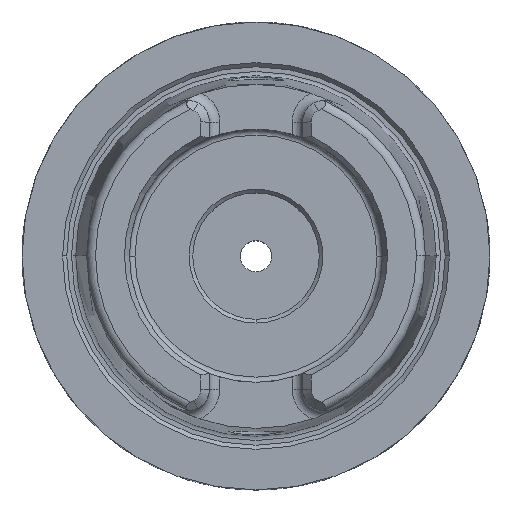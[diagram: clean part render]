
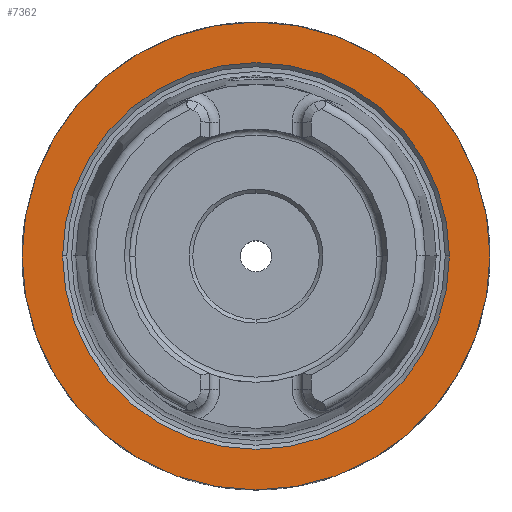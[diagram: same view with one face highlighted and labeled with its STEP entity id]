
A CAD part, top view. The second image highlights one B-rep face of the part: STEP entity #7362.
In plain terms, the highlighted planar face has unit normal (0, 0, 1).
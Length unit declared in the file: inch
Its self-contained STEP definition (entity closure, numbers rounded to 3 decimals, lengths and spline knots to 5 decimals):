
#112 = EDGE_CURVE ( 'NONE', #4594, #1712, #6298, .T. ) ;
#260 = CARTESIAN_POINT ( 'NONE',  ( 0., 0., 0. ) ) ;
#1052 = VERTEX_POINT ( 'NONE', #8057 ) ;
#1285 = DIRECTION ( 'NONE',  ( 1., 0., 0. ) ) ;
#1401 = AXIS2_PLACEMENT_3D ( 'NONE', #260, #3618, #6362 ) ;
#1557 = CIRCLE ( 'NONE', #8675, 1.02397 ) ;
#1589 = ORIENTED_EDGE ( 'NONE', *, *, #5002, .F. ) ;
#1653 = CARTESIAN_POINT ( 'NONE',  ( 0., 0., 0. ) ) ;
#1712 = VERTEX_POINT ( 'NONE', #3913 ) ;
#2086 = CARTESIAN_POINT ( 'NONE',  ( 0., 0.9575, 0. ) ) ;
#2138 = EDGE_CURVE ( 'NONE', #1712, #4594, #1557, .T. ) ;
#2254 = EDGE_LOOP ( 'NONE', ( #4894, #8268 ) ) ;
#2759 = DIRECTION ( 'NONE',  ( 0., 0., -1. ) ) ;
#2832 = CIRCLE ( 'NONE', #7831, 1.23898 ) ;
#3490 = FACE_BOUND ( 'NONE', #2254, .T. ) ;
#3618 = DIRECTION ( 'NONE',  ( 0., 0., -1. ) ) ;
#3889 = CARTESIAN_POINT ( 'NONE',  ( 0., 0., 0. ) ) ;
#3913 = CARTESIAN_POINT ( 'NONE',  ( 1.02397, 0., 0. ) ) ;
#4435 = DIRECTION ( 'NONE',  ( 1., 0., 0. ) ) ;
#4594 = VERTEX_POINT ( 'NONE', #7995 ) ;
#4768 = DIRECTION ( 'NONE',  ( 0., 0., 1. ) ) ;
#4825 = EDGE_CURVE ( 'NONE', #7436, #1052, #5261, .T. ) ;
#4894 = ORIENTED_EDGE ( 'NONE', *, *, #2138, .F. ) ;
#4902 = PLANE ( 'NONE',  #5433 ) ;
#5002 = EDGE_CURVE ( 'NONE', #1052, #7436, #2832, .T. ) ;
#5261 = CIRCLE ( 'NONE', #1401, 1.23898 ) ;
#5340 = CARTESIAN_POINT ( 'NONE',  ( 0., 0., 0. ) ) ;
#5351 = DIRECTION ( 'NONE',  ( 0., 0., 1. ) ) ;
#5433 = AXIS2_PLACEMENT_3D ( 'NONE', #2086, #4768, #7676 ) ;
#5751 = CARTESIAN_POINT ( 'NONE',  ( 1.23898, 0., 0. ) ) ;
#6298 = CIRCLE ( 'NONE', #6600, 1.02397 ) ;
#6362 = DIRECTION ( 'NONE',  ( -1., 0., 0. ) ) ;
#6600 = AXIS2_PLACEMENT_3D ( 'NONE', #1653, #7128, #4435 ) ;
#6859 = FACE_OUTER_BOUND ( 'NONE', #7981, .T. ) ;
#7128 = DIRECTION ( 'NONE',  ( 0., 0., 1. ) ) ;
#7362 = ADVANCED_FACE ( 'NONE', ( #6859, #3490 ), #4902, .T. ) ;
#7397 = ORIENTED_EDGE ( 'NONE', *, *, #4825, .F. ) ;
#7436 = VERTEX_POINT ( 'NONE', #5751 ) ;
#7676 = DIRECTION ( 'NONE',  ( 1., 0., 0. ) ) ;
#7831 = AXIS2_PLACEMENT_3D ( 'NONE', #5340, #2759, #8120 ) ;
#7981 = EDGE_LOOP ( 'NONE', ( #1589, #7397 ) ) ;
#7995 = CARTESIAN_POINT ( 'NONE',  ( -1.02397, 0., 0. ) ) ;
#8057 = CARTESIAN_POINT ( 'NONE',  ( -1.23898, 0., 0. ) ) ;
#8120 = DIRECTION ( 'NONE',  ( -1., 0., 0. ) ) ;
#8268 = ORIENTED_EDGE ( 'NONE', *, *, #112, .F. ) ;
#8675 = AXIS2_PLACEMENT_3D ( 'NONE', #3889, #5351, #1285 ) ;
